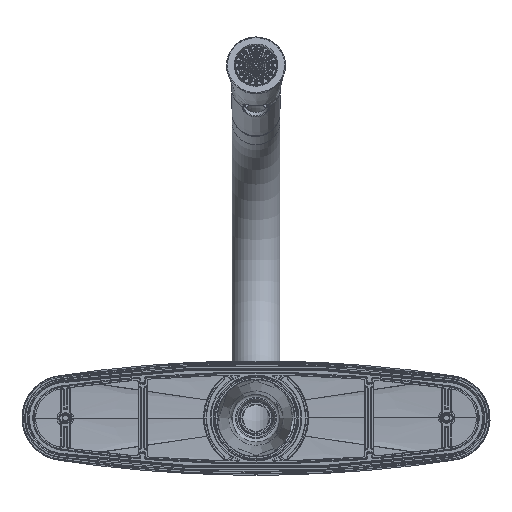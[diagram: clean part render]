
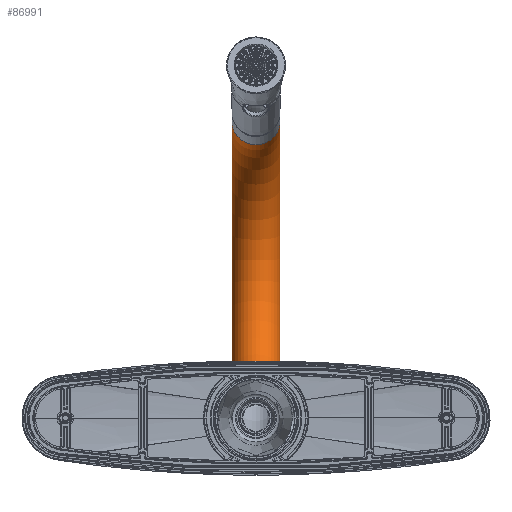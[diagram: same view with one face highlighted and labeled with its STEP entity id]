
A CAD part, front view. The second image highlights one B-rep face of the part: STEP entity #86991.
In plain terms, the highlighted toroidal (fillet/blend) face has major radius 84.789 mm and minor radius 13.437 mm.
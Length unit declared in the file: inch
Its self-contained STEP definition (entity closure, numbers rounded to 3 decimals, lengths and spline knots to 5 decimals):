
#2075 = AXIS2_PLACEMENT_3D ( 'NONE', #104984, #116261, #24914 ) ;
#8581 = CIRCLE ( 'NONE', #2075, 0.529 ) ;
#11476 = CARTESIAN_POINT ( 'NONE',  ( 0., 12.86386, 3.33814 ) ) ;
#11665 = CARTESIAN_POINT ( 'NONE',  ( 0., 12.86386, 0.529 ) ) ;
#13633 = VERTEX_POINT ( 'NONE', #11665 ) ;
#21030 = CARTESIAN_POINT ( 'NONE',  ( 0., 13.83984, 6.53042 ) ) ;
#24914 = DIRECTION ( 'NONE',  ( 0., 0., 1. ) ) ;
#30553 = EDGE_LOOP ( 'NONE', ( #45188 ) ) ;
#36440 = EDGE_CURVE ( 'NONE', #13633, #13633, #8581, .T. ) ;
#45188 = ORIENTED_EDGE ( 'NONE', *, *, #71481, .F. ) ;
#50929 = DIRECTION ( 'NONE',  ( 0., 0., -1. ) ) ;
#52869 = FACE_OUTER_BOUND ( 'NONE', #30553, .T. ) ;
#53525 = FACE_OUTER_BOUND ( 'NONE', #126439, .T. ) ;
#67631 = TOROIDAL_SURFACE ( 'NONE', #74010, 3.33814, 0.529 ) ;
#67700 = AXIS2_PLACEMENT_3D ( 'NONE', #21030, #79820, #69841 ) ;
#69841 = DIRECTION ( 'NONE',  ( 0., -0.292, -0.956 ) ) ;
#71010 = CARTESIAN_POINT ( 'NONE',  ( 0., 13.68517, 6.02454 ) ) ;
#71481 = EDGE_CURVE ( 'NONE', #79687, #79687, #76263, .T. ) ;
#71629 = DIRECTION ( 'NONE',  ( 1., 0., 0. ) ) ;
#74010 = AXIS2_PLACEMENT_3D ( 'NONE', #11476, #71629, #50929 ) ;
#76263 = CIRCLE ( 'NONE', #67700, 0.529 ) ;
#79687 = VERTEX_POINT ( 'NONE', #71010 ) ;
#79820 = DIRECTION ( 'NONE',  ( 0., -0.956, 0.292 ) ) ;
#80165 = ORIENTED_EDGE ( 'NONE', *, *, #36440, .T. ) ;
#86991 = ADVANCED_FACE ( 'NONE', ( #52869, #53525 ), #67631, .T. ) ;
#104984 = CARTESIAN_POINT ( 'NONE',  ( 0., 12.86386, 0. ) ) ;
#116261 = DIRECTION ( 'NONE',  ( 0., 1., 0. ) ) ;
#126439 = EDGE_LOOP ( 'NONE', ( #80165 ) ) ;
